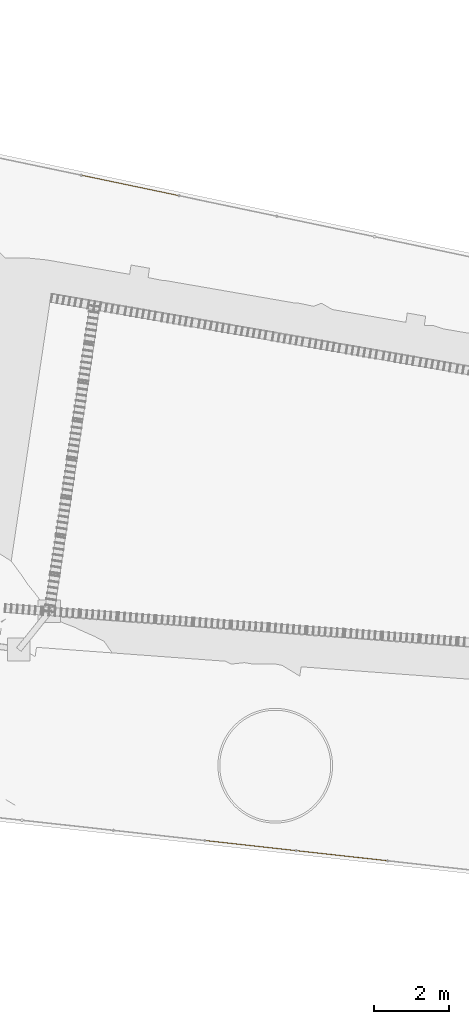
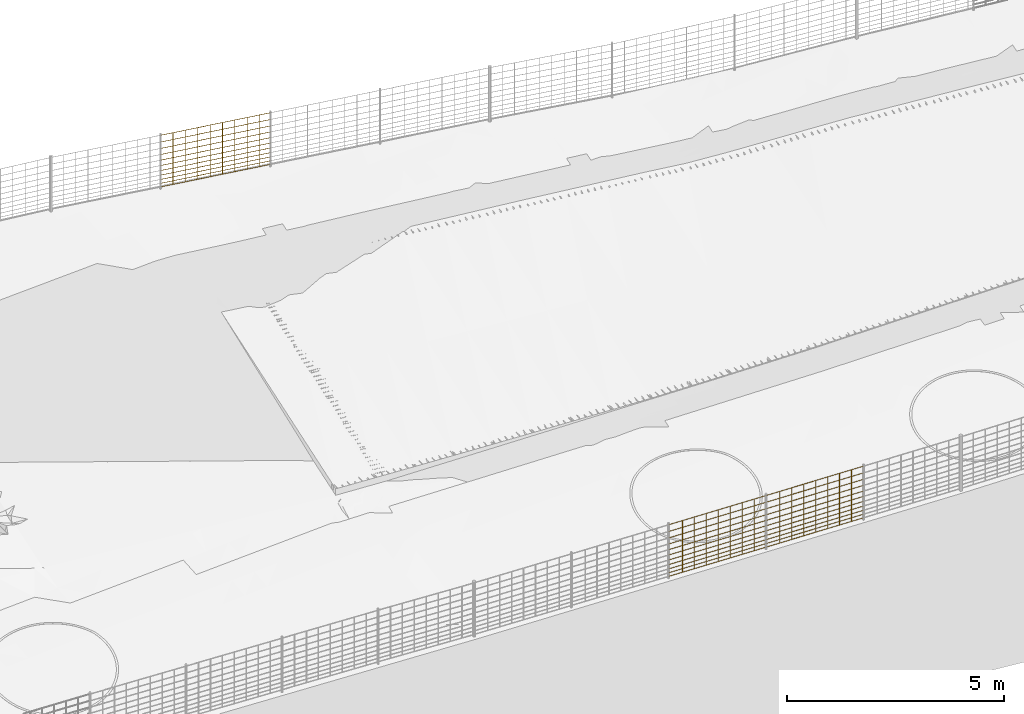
# Not in any storey, part 45 of 72: 3 railings.
"""IFC4 model written with IfcOpenShell, lengths in metres."""

from ifc_helpers import new_model, si_unit, direction, frame, origin_with_axes, place, context, subcontext, project, spatial, polygons, material, element, save


model = new_model("IFC4")

# Units and contexts
model_context = context("Model", 3, precision=1e-05, world=origin_with_axes(), true_north=direction((0.0, 1.0)))
body_context = subcontext(model_context, "Body", "Model", "MODEL_VIEW")
ifc_project = project(units=[si_unit("VOLUMEUNIT", "CUBIC_METRE"), si_unit("LENGTHUNIT", "METRE"), si_unit("AREAUNIT", "SQUARE_METRE")], contexts=[model_context])

# Site
site_placement = place(None, origin_with_axes())
site = spatial("IfcSite", under=ifc_project, at=site_placement, Name="Lares · Rua das Mercês · artigo 4771")

# Railings
ifc_material = material(Name="Aço galvanizado / Stahl verzinkt", Category="steel")
railing_1_placement = place(site_placement, frame((0.0, 0.0, 0.0), z_axis=(0.0, 0.0, 1.0), x_axis=(1.0, -1.03767253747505e-17, 0.0)))
element("IfcRailing", 1, at=railing_1_placement, inside=site, material=ifc_material, Name="Vedação · rede ovelheira 1.014", ObjectType="SHEEP_WIRE_FENCE", PredefinedType="USERDEFINED", context=body_context, shape_type="Tessellation", body=[
    polygons([(56.853072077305, -3.38710782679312, 14.1093326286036), (56.8529881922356, -3.38860773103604, 14.1078348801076), (56.8527410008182, -3.39008950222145, 14.1093326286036), (56.8528248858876, -3.38858959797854, 14.1108303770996), (54.422112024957, -3.11718115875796, 13.9751693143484), (54.4220281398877, -3.11868106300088, 13.9736715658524), (54.4217809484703, -3.12016283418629, 13.9751693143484), (54.4218648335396, -3.11866292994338, 13.9766670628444), (56.853072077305, -3.38710782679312, 14.2093326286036), (56.8529881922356, -3.38860773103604, 14.2078348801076), (56.8527410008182, -3.39008950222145, 14.2093326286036), (56.8528248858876, -3.38858959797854, 14.2108303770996), (54.422112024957, -3.11718115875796, 14.0751693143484), (54.4220281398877, -3.11868106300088, 14.0736715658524), (54.4217809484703, -3.12016283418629, 14.0751693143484), (54.4218648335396, -3.11866292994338, 14.0766670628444), (56.853072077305, -3.38710782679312, 14.3193326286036), (56.8529881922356, -3.38860773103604, 14.3178348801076), (56.8527410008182, -3.39008950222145, 14.3193326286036), (56.8528248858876, -3.38858959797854, 14.3208303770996), (54.422112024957, -3.11718115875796, 14.1851693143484), (54.4220281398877, -3.11868106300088, 14.1836715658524), (54.4217809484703, -3.12016283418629, 14.1851693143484), (54.4218648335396, -3.11866292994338, 14.1866670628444), (56.853072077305, -3.38710782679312, 14.4393326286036), (56.8529881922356, -3.38860773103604, 14.4378348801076), (56.8527410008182, -3.39008950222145, 14.4393326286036), (56.8528248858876, -3.38858959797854, 14.4408303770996), (54.422112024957, -3.11718115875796, 14.3051693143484), (54.4220281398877, -3.11868106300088, 14.3036715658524), (54.4217809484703, -3.12016283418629, 14.3051693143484), (54.4218648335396, -3.11866292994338, 14.3066670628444), (56.853072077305, -3.38710782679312, 14.5693326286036), (56.8529881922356, -3.38860773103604, 14.5678348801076), (56.8527410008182, -3.39008950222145, 14.5693326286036), (56.8528248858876, -3.38858959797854, 14.5708303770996), (54.422112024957, -3.11718115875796, 14.4351693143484), (54.4220281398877, -3.11868106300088, 14.4336715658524), (54.4217809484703, -3.12016283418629, 14.4351693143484), (54.4218648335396, -3.11866292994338, 14.4366670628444), (56.853072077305, -3.38710782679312, 14.7093326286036), (56.8529881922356, -3.38860773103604, 14.7078348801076), (56.8527410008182, -3.39008950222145, 14.7093326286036), (56.8528248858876, -3.38858959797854, 14.7108303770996), (54.422112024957, -3.11718115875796, 14.5751693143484), (54.4220281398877, -3.11868106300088, 14.5736715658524), (54.4217809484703, -3.12016283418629, 14.5751693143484), (54.4218648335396, -3.11866292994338, 14.5766670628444), (56.853072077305, -3.38710782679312, 14.8593326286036), (56.8529881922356, -3.38860773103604, 14.8578348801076), (56.8527410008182, -3.39008950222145, 14.8593326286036), (56.8528248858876, -3.38858959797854, 14.8608303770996), (54.422112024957, -3.11718115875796, 14.7251693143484), (54.4220281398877, -3.11868106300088, 14.7236715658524), (54.4217809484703, -3.12016283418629, 14.7251693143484), (54.4218648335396, -3.11866292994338, 14.7266670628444), (56.853072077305, -3.38710782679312, 15.0193326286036), (56.8529881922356, -3.38860773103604, 15.0178348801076), (56.8527410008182, -3.39008950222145, 15.0193326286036), (56.8528248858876, -3.38858959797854, 15.0208303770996), (54.422112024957, -3.11718115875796, 14.8851693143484), (54.4220281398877, -3.11868106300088, 14.8836715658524), (54.4217809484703, -3.12016283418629, 14.8851693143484), (54.4218648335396, -3.11866292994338, 14.8866670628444), (56.853072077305, -3.38710782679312, 15.1893326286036), (56.8529881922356, -3.38860773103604, 15.1878348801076), (56.8527410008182, -3.39008950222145, 15.1893326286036), (56.8528248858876, -3.38858959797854, 15.1908303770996), (54.422112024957, -3.11718115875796, 15.0551693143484), (54.4220281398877, -3.11868106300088, 15.0536715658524), (54.4217809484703, -3.12016283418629, 15.0551693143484), (54.4218648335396, -3.11866292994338, 15.0566670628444), (56.853072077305, -3.38710782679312, 15.3693326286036), (56.8529881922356, -3.38860773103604, 15.3678348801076), (56.8527410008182, -3.39008950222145, 15.3693326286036), (56.8528248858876, -3.38858959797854, 15.3708303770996), (54.422112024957, -3.11718115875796, 15.2351693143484), (54.4220281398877, -3.11868106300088, 15.2336715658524), (54.4217809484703, -3.12016283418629, 15.2351693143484), (54.4218648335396, -3.11866292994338, 15.2366670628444), (56.853072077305, -3.38710782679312, 15.5593326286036), (56.8529881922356, -3.38860773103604, 15.5578348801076), (56.8527410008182, -3.39008950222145, 15.5593326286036), (56.8528248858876, -3.38858959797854, 15.5608303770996), (54.422112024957, -3.11718115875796, 15.4251693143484), (54.4220281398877, -3.11868106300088, 15.4236715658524), (54.4217809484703, -3.12016283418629, 15.4251693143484), (54.4218648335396, -3.11866292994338, 15.4266670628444), (56.5547389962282, -3.35399101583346, 14.0928769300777), (56.5532389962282, -3.35549101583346, 14.0928769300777), (56.5547389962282, -3.35699101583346, 14.0928769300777), (56.5562389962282, -3.35549101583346, 14.0928769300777), (56.5547389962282, -3.35399101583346, 15.5428769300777), (56.5532389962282, -3.35549101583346, 15.5428769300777), (56.5547389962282, -3.35699101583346, 15.5428769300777), (56.5562389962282, -3.35549101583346, 15.5428769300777), (56.2565714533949, -3.32088336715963, 14.0764212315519), (56.2550714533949, -3.32238336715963, 14.0764212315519), (56.2565714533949, -3.32388336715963, 14.0764212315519), (56.2580714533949, -3.32238336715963, 14.0764212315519), (56.2565714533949, -3.32088336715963, 15.5264212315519), (56.2550714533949, -3.32238336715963, 15.5264212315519), (56.2565714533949, -3.32388336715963, 15.5264212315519), (56.2580714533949, -3.32238336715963, 15.5264212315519), (55.9584039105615, -3.28777571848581, 14.059965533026), (55.9569039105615, -3.28927571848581, 14.059965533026), (55.9584039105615, -3.29077571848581, 14.059965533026), (55.9599039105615, -3.28927571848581, 14.059965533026), (55.9584039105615, -3.28777571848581, 15.509965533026), (55.9569039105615, -3.28927571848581, 15.509965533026), (55.9584039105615, -3.29077571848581, 15.509965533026), (55.9599039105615, -3.28927571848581, 15.509965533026), (55.6602363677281, -3.25466806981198, 14.0435098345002), (55.6587363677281, -3.25616806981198, 14.0435098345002), (55.6602363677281, -3.25766806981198, 14.0435098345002), (55.6617363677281, -3.25616806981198, 14.0435098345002), (55.6602363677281, -3.25466806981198, 15.4935098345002), (55.6587363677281, -3.25616806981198, 15.4935098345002), (55.6602363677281, -3.25766806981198, 15.4935098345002), (55.6617363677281, -3.25616806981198, 15.4935098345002), (55.3620688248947, -3.22156042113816, 14.0270541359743), (55.3605688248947, -3.22306042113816, 14.0270541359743), (55.3620688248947, -3.22456042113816, 14.0270541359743), (55.3635688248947, -3.22306042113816, 14.0270541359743), (55.3620688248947, -3.22156042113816, 15.4770541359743), (55.3605688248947, -3.22306042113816, 15.4770541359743), (55.3620688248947, -3.22456042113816, 15.4770541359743), (55.3635688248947, -3.22306042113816, 15.4770541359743), (55.0639012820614, -3.18845277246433, 14.0105984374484), (55.0624012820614, -3.18995277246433, 14.0105984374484), (55.0639012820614, -3.19145277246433, 14.0105984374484), (55.0654012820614, -3.18995277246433, 14.0105984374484), (55.0639012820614, -3.18845277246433, 15.4605984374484), (55.0624012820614, -3.18995277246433, 15.4605984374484), (55.0639012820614, -3.19145277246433, 15.4605984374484), (55.0654012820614, -3.18995277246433, 15.4605984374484), (54.765733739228, -3.1553451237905, 13.9941427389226), (54.764233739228, -3.1568451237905, 13.9941427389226), (54.765733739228, -3.1583451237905, 13.9941427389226), (54.767233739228, -3.1568451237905, 13.9941427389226), (54.765733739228, -3.1553451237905, 15.4441427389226), (54.764233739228, -3.1568451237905, 15.4441427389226), (54.765733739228, -3.1583451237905, 15.4441427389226), (54.767233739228, -3.1568451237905, 15.4441427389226)], [[[4, 3, 2, 1]], [[5, 6, 7, 8]], [[1, 2, 6, 5]], [[2, 3, 7, 6]], [[3, 4, 8, 7]], [[4, 1, 5, 8]], [[12, 11, 10, 9]], [[13, 14, 15, 16]], [[9, 10, 14, 13]], [[10, 11, 15, 14]], [[11, 12, 16, 15]], [[12, 9, 13, 16]], [[20, 19, 18, 17]], [[21, 22, 23, 24]], [[17, 18, 22, 21]], [[18, 19, 23, 22]], [[19, 20, 24, 23]], [[20, 17, 21, 24]], [[28, 27, 26, 25]], [[29, 30, 31, 32]], [[25, 26, 30, 29]], [[26, 27, 31, 30]], [[27, 28, 32, 31]], [[28, 25, 29, 32]], [[36, 35, 34, 33]], [[37, 38, 39, 40]], [[33, 34, 38, 37]], [[34, 35, 39, 38]], [[35, 36, 40, 39]], [[36, 33, 37, 40]], [[44, 43, 42, 41]], [[45, 46, 47, 48]], [[41, 42, 46, 45]], [[42, 43, 47, 46]], [[43, 44, 48, 47]], [[44, 41, 45, 48]], [[52, 51, 50, 49]], [[53, 54, 55, 56]], [[49, 50, 54, 53]], [[50, 51, 55, 54]], [[51, 52, 56, 55]], [[52, 49, 53, 56]], [[60, 59, 58, 57]], [[61, 62, 63, 64]], [[57, 58, 62, 61]], [[58, 59, 63, 62]], [[59, 60, 64, 63]], [[60, 57, 61, 64]], [[68, 67, 66, 65]], [[69, 70, 71, 72]], [[65, 66, 70, 69]], [[66, 67, 71, 70]], [[67, 68, 72, 71]], [[68, 65, 69, 72]], [[76, 75, 74, 73]], [[77, 78, 79, 80]], [[73, 74, 78, 77]], [[74, 75, 79, 78]], [[75, 76, 80, 79]], [[76, 73, 77, 80]], [[84, 83, 82, 81]], [[85, 86, 87, 88]], [[81, 82, 86, 85]], [[82, 83, 87, 86]], [[83, 84, 88, 87]], [[84, 81, 85, 88]], [[92, 91, 90, 89]], [[93, 94, 95, 96]], [[89, 90, 94, 93]], [[90, 91, 95, 94]], [[91, 92, 96, 95]], [[92, 89, 93, 96]], [[100, 99, 98, 97]], [[101, 102, 103, 104]], [[97, 98, 102, 101]], [[98, 99, 103, 102]], [[99, 100, 104, 103]], [[100, 97, 101, 104]], [[108, 107, 106, 105]], [[109, 110, 111, 112]], [[105, 106, 110, 109]], [[106, 107, 111, 110]], [[107, 108, 112, 111]], [[108, 105, 109, 112]], [[116, 115, 114, 113]], [[117, 118, 119, 120]], [[113, 114, 118, 117]], [[114, 115, 119, 118]], [[115, 116, 120, 119]], [[116, 113, 117, 120]], [[124, 123, 122, 121]], [[125, 126, 127, 128]], [[121, 122, 126, 125]], [[122, 123, 127, 126]], [[123, 124, 128, 127]], [[124, 121, 125, 128]], [[132, 131, 130, 129]], [[133, 134, 135, 136]], [[129, 130, 134, 133]], [[130, 131, 135, 134]], [[131, 132, 136, 135]], [[132, 129, 133, 136]], [[140, 139, 138, 137]], [[141, 142, 143, 144]], [[137, 138, 142, 141]], [[138, 139, 143, 142]], [[139, 140, 144, 143]], [[140, 137, 141, 144]]]),
])
railing_2_placement = place(site_placement, frame((0.0, 0.0, 0.0), z_axis=(0.0, 0.0, 1.0), x_axis=(1.0, -1.03767253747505e-17, 0.0)))
element("IfcRailing", 2, at=railing_2_placement, inside=site, material=ifc_material, Name="Vedação · rede ovelheira 1.015", ObjectType="SHEEP_WIRE_FENCE", PredefinedType="USERDEFINED", context=body_context, shape_type="Tessellation", body=[
    polygons([(54.422112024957, -3.11718115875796, 13.9751693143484), (54.4220281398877, -3.11868106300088, 13.9736715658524), (54.4217809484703, -3.12016283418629, 13.9751693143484), (54.4218648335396, -3.11866292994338, 13.9766670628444), (51.991151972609, -2.8472544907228, 13.8410060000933), (51.9910680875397, -2.84875439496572, 13.8395082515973), (51.9908208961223, -2.85023616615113, 13.8410060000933), (51.9909047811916, -2.84873626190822, 13.8425037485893), (54.422112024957, -3.11718115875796, 14.0751693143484), (54.4220281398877, -3.11868106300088, 14.0736715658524), (54.4217809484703, -3.12016283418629, 14.0751693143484), (54.4218648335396, -3.11866292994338, 14.0766670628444), (51.991151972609, -2.8472544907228, 13.9410060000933), (51.9910680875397, -2.84875439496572, 13.9395082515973), (51.9908208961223, -2.85023616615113, 13.9410060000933), (51.9909047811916, -2.84873626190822, 13.9425037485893), (54.422112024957, -3.11718115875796, 14.1851693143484), (54.4220281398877, -3.11868106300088, 14.1836715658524), (54.4217809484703, -3.12016283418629, 14.1851693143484), (54.4218648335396, -3.11866292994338, 14.1866670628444), (51.991151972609, -2.8472544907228, 14.0510060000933), (51.9910680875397, -2.84875439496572, 14.0495082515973), (51.9908208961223, -2.85023616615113, 14.0510060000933), (51.9909047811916, -2.84873626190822, 14.0525037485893), (54.422112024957, -3.11718115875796, 14.3051693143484), (54.4220281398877, -3.11868106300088, 14.3036715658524), (54.4217809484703, -3.12016283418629, 14.3051693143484), (54.4218648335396, -3.11866292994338, 14.3066670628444), (51.991151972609, -2.8472544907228, 14.1710060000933), (51.9910680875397, -2.84875439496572, 14.1695082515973), (51.9908208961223, -2.85023616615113, 14.1710060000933), (51.9909047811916, -2.84873626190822, 14.1725037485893), (54.422112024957, -3.11718115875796, 14.4351693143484), (54.4220281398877, -3.11868106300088, 14.4336715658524), (54.4217809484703, -3.12016283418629, 14.4351693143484), (54.4218648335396, -3.11866292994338, 14.4366670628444), (51.991151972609, -2.8472544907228, 14.3010060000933), (51.9910680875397, -2.84875439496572, 14.2995082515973), (51.9908208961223, -2.85023616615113, 14.3010060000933), (51.9909047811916, -2.84873626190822, 14.3025037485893), (54.422112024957, -3.11718115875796, 14.5751693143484), (54.4220281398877, -3.11868106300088, 14.5736715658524), (54.4217809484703, -3.12016283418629, 14.5751693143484), (54.4218648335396, -3.11866292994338, 14.5766670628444), (51.991151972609, -2.8472544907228, 14.4410060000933), (51.9910680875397, -2.84875439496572, 14.4395082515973), (51.9908208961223, -2.85023616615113, 14.4410060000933), (51.9909047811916, -2.84873626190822, 14.4425037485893), (54.422112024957, -3.11718115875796, 14.7251693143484), (54.4220281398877, -3.11868106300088, 14.7236715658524), (54.4217809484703, -3.12016283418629, 14.7251693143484), (54.4218648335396, -3.11866292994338, 14.7266670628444), (51.991151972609, -2.8472544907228, 14.5910060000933), (51.9910680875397, -2.84875439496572, 14.5895082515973), (51.9908208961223, -2.85023616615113, 14.5910060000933), (51.9909047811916, -2.84873626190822, 14.5925037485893), (54.422112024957, -3.11718115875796, 14.8851693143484), (54.4220281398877, -3.11868106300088, 14.8836715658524), (54.4217809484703, -3.12016283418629, 14.8851693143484), (54.4218648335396, -3.11866292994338, 14.8866670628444), (51.991151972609, -2.8472544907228, 14.7510060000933), (51.9910680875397, -2.84875439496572, 14.7495082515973), (51.9908208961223, -2.85023616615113, 14.7510060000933), (51.9909047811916, -2.84873626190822, 14.7525037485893), (54.422112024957, -3.11718115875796, 15.0551693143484), (54.4220281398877, -3.11868106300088, 15.0536715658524), (54.4217809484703, -3.12016283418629, 15.0551693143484), (54.4218648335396, -3.11866292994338, 15.0566670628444), (51.991151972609, -2.8472544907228, 14.9210060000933), (51.9910680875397, -2.84875439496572, 14.9195082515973), (51.9908208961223, -2.85023616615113, 14.9210060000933), (51.9909047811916, -2.84873626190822, 14.9225037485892), (54.422112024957, -3.11718115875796, 15.2351693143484), (54.4220281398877, -3.11868106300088, 15.2336715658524), (54.4217809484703, -3.12016283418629, 15.2351693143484), (54.4218648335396, -3.11866292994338, 15.2366670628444), (51.991151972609, -2.8472544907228, 15.1010060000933), (51.9910680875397, -2.84875439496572, 15.0995082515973), (51.9908208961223, -2.85023616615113, 15.1010060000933), (51.9909047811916, -2.84873626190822, 15.1025037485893), (54.422112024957, -3.11718115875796, 15.4251693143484), (54.4220281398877, -3.11868106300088, 15.4236715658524), (54.4217809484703, -3.12016283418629, 15.4251693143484), (54.4218648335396, -3.11866292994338, 15.4266670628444), (51.991151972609, -2.8472544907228, 15.2910060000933), (51.9910680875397, -2.84875439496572, 15.2895082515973), (51.9908208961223, -2.85023616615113, 15.2910060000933), (51.9909047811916, -2.84873626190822, 15.2925037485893), (54.1237789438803, -3.0840643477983, 13.9587136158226), (54.1222789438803, -3.0855643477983, 13.9587136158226), (54.1237789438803, -3.0870643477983, 13.9587136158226), (54.1252789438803, -3.0855643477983, 13.9587136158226), (54.1237789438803, -3.0840643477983, 15.4087136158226), (54.1222789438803, -3.0855643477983, 15.4087136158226), (54.1237789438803, -3.0870643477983, 15.4087136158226), (54.1252789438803, -3.0855643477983, 15.4087136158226), (53.8256114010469, -3.05095669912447, 13.9422579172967), (53.8241114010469, -3.05245669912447, 13.9422579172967), (53.8256114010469, -3.05395669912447, 13.9422579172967), (53.8271114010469, -3.05245669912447, 13.9422579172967), (53.8256114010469, -3.05095669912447, 15.3922579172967), (53.8241114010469, -3.05245669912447, 15.3922579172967), (53.8256114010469, -3.05395669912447, 15.3922579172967), (53.8271114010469, -3.05245669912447, 15.3922579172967), (53.5274438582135, -3.01784905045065, 13.9258022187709), (53.5259438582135, -3.01934905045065, 13.9258022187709), (53.5274438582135, -3.02084905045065, 13.9258022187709), (53.5289438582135, -3.01934905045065, 13.9258022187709), (53.5274438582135, -3.01784905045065, 15.3758022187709), (53.5259438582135, -3.01934905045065, 15.3758022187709), (53.5274438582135, -3.02084905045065, 15.3758022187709), (53.5289438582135, -3.01934905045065, 15.3758022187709), (53.2292763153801, -2.98474140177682, 13.909346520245), (53.2277763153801, -2.98624140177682, 13.909346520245), (53.2292763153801, -2.98774140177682, 13.909346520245), (53.2307763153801, -2.98624140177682, 13.909346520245), (53.2292763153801, -2.98474140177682, 15.359346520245), (53.2277763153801, -2.98624140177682, 15.359346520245), (53.2292763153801, -2.98774140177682, 15.359346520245), (53.2307763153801, -2.98624140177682, 15.359346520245), (52.9311087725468, -2.951633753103, 13.8928908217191), (52.9296087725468, -2.953133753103, 13.8928908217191), (52.9311087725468, -2.954633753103, 13.8928908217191), (52.9326087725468, -2.953133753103, 13.8928908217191), (52.9311087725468, -2.951633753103, 15.3428908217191), (52.9296087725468, -2.953133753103, 15.3428908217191), (52.9311087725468, -2.954633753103, 15.3428908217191), (52.9326087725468, -2.953133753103, 15.3428908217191), (52.6329412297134, -2.91852610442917, 13.8764351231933), (52.6314412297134, -2.92002610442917, 13.8764351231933), (52.6329412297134, -2.92152610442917, 13.8764351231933), (52.6344412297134, -2.92002610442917, 13.8764351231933), (52.6329412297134, -2.91852610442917, 15.3264351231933), (52.6314412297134, -2.92002610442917, 15.3264351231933), (52.6329412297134, -2.92152610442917, 15.3264351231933), (52.6344412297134, -2.92002610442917, 15.3264351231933), (52.33477368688, -2.88541845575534, 13.8599794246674), (52.33327368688, -2.88691845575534, 13.8599794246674), (52.33477368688, -2.88841845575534, 13.8599794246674), (52.33627368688, -2.88691845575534, 13.8599794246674), (52.33477368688, -2.88541845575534, 15.3099794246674), (52.33327368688, -2.88691845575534, 15.3099794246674), (52.33477368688, -2.88841845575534, 15.3099794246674), (52.33627368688, -2.88691845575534, 15.3099794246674)], [[[4, 3, 2, 1]], [[5, 6, 7, 8]], [[1, 2, 6, 5]], [[2, 3, 7, 6]], [[3, 4, 8, 7]], [[4, 1, 5, 8]], [[12, 11, 10, 9]], [[13, 14, 15, 16]], [[9, 10, 14, 13]], [[10, 11, 15, 14]], [[11, 12, 16, 15]], [[12, 9, 13, 16]], [[20, 19, 18, 17]], [[21, 22, 23, 24]], [[17, 18, 22, 21]], [[18, 19, 23, 22]], [[19, 20, 24, 23]], [[20, 17, 21, 24]], [[28, 27, 26, 25]], [[29, 30, 31, 32]], [[25, 26, 30, 29]], [[26, 27, 31, 30]], [[27, 28, 32, 31]], [[28, 25, 29, 32]], [[36, 35, 34, 33]], [[37, 38, 39, 40]], [[33, 34, 38, 37]], [[34, 35, 39, 38]], [[35, 36, 40, 39]], [[36, 33, 37, 40]], [[44, 43, 42, 41]], [[45, 46, 47, 48]], [[41, 42, 46, 45]], [[42, 43, 47, 46]], [[43, 44, 48, 47]], [[44, 41, 45, 48]], [[52, 51, 50, 49]], [[53, 54, 55, 56]], [[49, 50, 54, 53]], [[50, 51, 55, 54]], [[51, 52, 56, 55]], [[52, 49, 53, 56]], [[60, 59, 58, 57]], [[61, 62, 63, 64]], [[57, 58, 62, 61]], [[58, 59, 63, 62]], [[59, 60, 64, 63]], [[60, 57, 61, 64]], [[68, 67, 66, 65]], [[69, 70, 71, 72]], [[65, 66, 70, 69]], [[66, 67, 71, 70]], [[67, 68, 72, 71]], [[68, 65, 69, 72]], [[76, 75, 74, 73]], [[77, 78, 79, 80]], [[73, 74, 78, 77]], [[74, 75, 79, 78]], [[75, 76, 80, 79]], [[76, 73, 77, 80]], [[84, 83, 82, 81]], [[85, 86, 87, 88]], [[81, 82, 86, 85]], [[82, 83, 87, 86]], [[83, 84, 88, 87]], [[84, 81, 85, 88]], [[92, 91, 90, 89]], [[93, 94, 95, 96]], [[89, 90, 94, 93]], [[90, 91, 95, 94]], [[91, 92, 96, 95]], [[92, 89, 93, 96]], [[100, 99, 98, 97]], [[101, 102, 103, 104]], [[97, 98, 102, 101]], [[98, 99, 103, 102]], [[99, 100, 104, 103]], [[100, 97, 101, 104]], [[108, 107, 106, 105]], [[109, 110, 111, 112]], [[105, 106, 110, 109]], [[106, 107, 111, 110]], [[107, 108, 112, 111]], [[108, 105, 109, 112]], [[116, 115, 114, 113]], [[117, 118, 119, 120]], [[113, 114, 118, 117]], [[114, 115, 119, 118]], [[115, 116, 120, 119]], [[116, 113, 117, 120]], [[124, 123, 122, 121]], [[125, 126, 127, 128]], [[121, 122, 126, 125]], [[122, 123, 127, 126]], [[123, 124, 128, 127]], [[124, 121, 125, 128]], [[132, 131, 130, 129]], [[133, 134, 135, 136]], [[129, 130, 134, 133]], [[130, 131, 135, 134]], [[131, 132, 136, 135]], [[132, 129, 133, 136]], [[140, 139, 138, 137]], [[141, 142, 143, 144]], [[137, 138, 142, 141]], [[138, 139, 143, 142]], [[139, 140, 144, 143]], [[140, 137, 141, 144]]]),
])
railing_3_placement = place(site_placement, frame((0.0, 0.0, 0.0), z_axis=(0.0, 0.0, 1.0), x_axis=(1.0, -1.03767253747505e-17, 0.0)))
element("IfcRailing", 3, at=railing_3_placement, inside=site, material=ifc_material, Name="Vedação · rede ovelheira 1.069", ObjectType="SHEEP_WIRE_FENCE", PredefinedType="USERDEFINED", context=body_context, shape_type="Tessellation", body=[
    polygons([(48.7068138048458, 14.8438301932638, 15.2015622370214), (48.7071502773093, 14.8452922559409, 15.2000625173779), (48.7074299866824, 14.8467662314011, 15.2015622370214), (48.7070935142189, 14.845304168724, 15.203061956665), (51.3069349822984, 14.2981467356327, 15.252935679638), (51.3072714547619, 14.2996087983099, 15.2514359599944), (51.307551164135, 14.3010827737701, 15.252935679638), (51.3072146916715, 14.2996207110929, 15.2544353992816), (48.7068138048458, 14.8438301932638, 15.3015622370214), (48.7071502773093, 14.8452922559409, 15.3000625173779), (48.7074299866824, 14.8467662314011, 15.3015622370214), (48.7070935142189, 14.845304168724, 15.303061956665), (51.3069349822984, 14.2981467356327, 15.352935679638), (51.3072714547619, 14.2996087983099, 15.3514359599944), (51.307551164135, 14.3010827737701, 15.352935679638), (51.3072146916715, 14.2996207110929, 15.3544353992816), (48.7068138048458, 14.8438301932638, 15.4115622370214), (48.7071502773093, 14.8452922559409, 15.4100625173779), (48.7074299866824, 14.8467662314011, 15.4115622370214), (48.7070935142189, 14.845304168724, 15.413061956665), (51.3069349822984, 14.2981467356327, 15.462935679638), (51.3072714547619, 14.2996087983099, 15.4614359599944), (51.307551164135, 14.3010827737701, 15.462935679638), (51.3072146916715, 14.2996207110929, 15.4644353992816), (48.7068138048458, 14.8438301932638, 15.5315622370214), (48.7071502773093, 14.8452922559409, 15.5300625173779), (48.7074299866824, 14.8467662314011, 15.5315622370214), (48.7070935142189, 14.845304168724, 15.533061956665), (51.3069349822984, 14.2981467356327, 15.582935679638), (51.3072714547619, 14.2996087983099, 15.5814359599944), (51.307551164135, 14.3010827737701, 15.582935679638), (51.3072146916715, 14.2996207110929, 15.5844353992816), (48.7068138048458, 14.8438301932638, 15.6615622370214), (48.7071502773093, 14.8452922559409, 15.6600625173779), (48.7074299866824, 14.8467662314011, 15.6615622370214), (48.7070935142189, 14.845304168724, 15.663061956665), (51.3069349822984, 14.2981467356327, 15.712935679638), (51.3072714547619, 14.2996087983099, 15.7114359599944), (51.307551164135, 14.3010827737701, 15.712935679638), (51.3072146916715, 14.2996207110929, 15.7144353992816), (48.7068138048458, 14.8438301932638, 15.8015622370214), (48.7071502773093, 14.8452922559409, 15.8000625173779), (48.7074299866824, 14.8467662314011, 15.8015622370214), (48.7070935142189, 14.845304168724, 15.803061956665), (51.3069349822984, 14.2981467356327, 15.852935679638), (51.3072714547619, 14.2996087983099, 15.8514359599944), (51.307551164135, 14.3010827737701, 15.852935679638), (51.3072146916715, 14.2996207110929, 15.8544353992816), (48.7068138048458, 14.8438301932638, 15.9515622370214), (48.7071502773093, 14.8452922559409, 15.9500625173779), (48.7074299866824, 14.8467662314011, 15.9515622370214), (48.7070935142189, 14.845304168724, 15.953061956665), (51.3069349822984, 14.2981467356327, 16.002935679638), (51.3072714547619, 14.2996087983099, 16.0014359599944), (51.307551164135, 14.3010827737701, 16.002935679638), (51.3072146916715, 14.2996207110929, 16.0044353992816), (48.7068138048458, 14.8438301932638, 16.1115622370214), (48.7071502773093, 14.8452922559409, 16.1100625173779), (48.7074299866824, 14.8467662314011, 16.1115622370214), (48.7070935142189, 14.845304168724, 16.113061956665), (51.3069349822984, 14.2981467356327, 16.162935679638), (51.3072714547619, 14.2996087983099, 16.1614359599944), (51.307551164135, 14.3010827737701, 16.162935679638), (51.3072146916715, 14.2996207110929, 16.1644353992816), (48.7068138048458, 14.8438301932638, 16.2815622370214), (48.7071502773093, 14.8452922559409, 16.2800625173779), (48.7074299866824, 14.8467662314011, 16.2815622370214), (48.7070935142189, 14.845304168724, 16.283061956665), (51.3069349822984, 14.2981467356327, 16.332935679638), (51.3072714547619, 14.2996087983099, 16.3314359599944), (51.307551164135, 14.3010827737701, 16.332935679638), (51.3072146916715, 14.2996207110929, 16.3344353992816), (48.7068138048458, 14.8438301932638, 16.4615622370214), (48.7071502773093, 14.8452922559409, 16.4600625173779), (48.7074299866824, 14.8467662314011, 16.4615622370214), (48.7070935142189, 14.845304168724, 16.463061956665), (51.3069349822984, 14.2981467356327, 16.512935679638), (51.3072714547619, 14.2996087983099, 16.5114359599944), (51.307551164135, 14.3010827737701, 16.512935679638), (51.3072146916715, 14.2996207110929, 16.5144353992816), (48.7068138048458, 14.8438301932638, 16.6515622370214), (48.7071502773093, 14.8452922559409, 16.6500625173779), (48.7074299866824, 14.8467662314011, 16.6515622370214), (48.7070935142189, 14.845304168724, 16.653061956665), (51.3069349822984, 14.2981467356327, 16.702935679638), (51.3072714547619, 14.2996087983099, 16.7014359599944), (51.307551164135, 14.3010827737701, 16.702935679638), (51.3072146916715, 14.2996207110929, 16.7044353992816), (49.0007257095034, 14.7851800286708, 15.2073632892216), (48.9992257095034, 14.7836800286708, 15.2073632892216), (49.0007257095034, 14.7821800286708, 15.2073632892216), (49.0022257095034, 14.7836800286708, 15.2073632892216), (49.0007257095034, 14.7851800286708, 16.6573632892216), (48.9992257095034, 14.7836800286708, 16.6573632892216), (49.0007257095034, 14.7821800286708, 16.6573632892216), (49.0022257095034, 14.7836800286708, 16.6573632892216), (49.2943295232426, 14.7235618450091, 15.2131643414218), (49.2928295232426, 14.7220618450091, 15.2131643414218), (49.2943295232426, 14.7205618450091, 15.2131643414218), (49.2958295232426, 14.7220618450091, 15.2131643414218), (49.2943295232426, 14.7235618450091, 16.6631643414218), (49.2928295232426, 14.7220618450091, 16.6631643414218), (49.2943295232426, 14.7205618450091, 16.6631643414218), (49.2958295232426, 14.7220618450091, 16.6631643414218), (49.5879333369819, 14.6619436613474, 15.2189653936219), (49.5864333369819, 14.6604436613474, 15.2189653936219), (49.5879333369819, 14.6589436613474, 15.2189653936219), (49.5894333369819, 14.6604436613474, 15.2189653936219), (49.5879333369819, 14.6619436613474, 16.6689653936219), (49.5864333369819, 14.6604436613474, 16.6689653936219), (49.5879333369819, 14.6589436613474, 16.6689653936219), (49.5894333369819, 14.6604436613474, 16.6689653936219), (49.8815371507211, 14.6003254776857, 15.2247664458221), (49.8800371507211, 14.5988254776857, 15.2247664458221), (49.8815371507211, 14.5973254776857, 15.2247664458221), (49.8830371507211, 14.5988254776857, 15.2247664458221), (49.8815371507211, 14.6003254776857, 16.6747664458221), (49.8800371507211, 14.5988254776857, 16.6747664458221), (49.8815371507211, 14.5973254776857, 16.6747664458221), (49.8830371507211, 14.5988254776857, 16.6747664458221), (50.1751409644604, 14.5387072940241, 15.2305674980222), (50.1736409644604, 14.5372072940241, 15.2305674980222), (50.1751409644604, 14.5357072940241, 15.2305674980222), (50.1766409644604, 14.5372072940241, 15.2305674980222), (50.1751409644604, 14.5387072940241, 16.6805674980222), (50.1736409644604, 14.5372072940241, 16.6805674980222), (50.1751409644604, 14.5357072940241, 16.6805674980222), (50.1766409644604, 14.5372072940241, 16.6805674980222), (50.4687447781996, 14.4770891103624, 15.2363685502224), (50.4672447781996, 14.4755891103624, 15.2363685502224), (50.4687447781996, 14.4740891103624, 15.2363685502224), (50.4702447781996, 14.4755891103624, 15.2363685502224), (50.4687447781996, 14.4770891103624, 16.6863685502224), (50.4672447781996, 14.4755891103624, 16.6863685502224), (50.4687447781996, 14.4740891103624, 16.6863685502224), (50.4702447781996, 14.4755891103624, 16.6863685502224), (50.7623485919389, 14.4154709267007, 15.2421696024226), (50.7608485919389, 14.4139709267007, 15.2421696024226), (50.7623485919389, 14.4124709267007, 15.2421696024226), (50.7638485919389, 14.4139709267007, 15.2421696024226), (50.7623485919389, 14.4154709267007, 16.6921696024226), (50.7608485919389, 14.4139709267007, 16.6921696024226), (50.7623485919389, 14.4124709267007, 16.6921696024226), (50.7638485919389, 14.4139709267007, 16.6921696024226), (51.0559524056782, 14.353852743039, 15.2479706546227), (51.0544524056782, 14.352352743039, 15.2479706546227), (51.0559524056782, 14.350852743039, 15.2479706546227), (51.0574524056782, 14.352352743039, 15.2479706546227), (51.0559524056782, 14.353852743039, 16.6979706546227), (51.0544524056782, 14.352352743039, 16.6979706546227), (51.0559524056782, 14.350852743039, 16.6979706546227), (51.0574524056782, 14.352352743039, 16.6979706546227)], [[[4, 3, 2, 1]], [[5, 6, 7, 8]], [[1, 2, 6, 5]], [[2, 3, 7, 6]], [[3, 4, 8, 7]], [[4, 1, 5, 8]], [[12, 11, 10, 9]], [[13, 14, 15, 16]], [[9, 10, 14, 13]], [[10, 11, 15, 14]], [[11, 12, 16, 15]], [[12, 9, 13, 16]], [[20, 19, 18, 17]], [[21, 22, 23, 24]], [[17, 18, 22, 21]], [[18, 19, 23, 22]], [[19, 20, 24, 23]], [[20, 17, 21, 24]], [[28, 27, 26, 25]], [[29, 30, 31, 32]], [[25, 26, 30, 29]], [[26, 27, 31, 30]], [[27, 28, 32, 31]], [[28, 25, 29, 32]], [[36, 35, 34, 33]], [[37, 38, 39, 40]], [[33, 34, 38, 37]], [[34, 35, 39, 38]], [[35, 36, 40, 39]], [[36, 33, 37, 40]], [[44, 43, 42, 41]], [[45, 46, 47, 48]], [[41, 42, 46, 45]], [[42, 43, 47, 46]], [[43, 44, 48, 47]], [[44, 41, 45, 48]], [[52, 51, 50, 49]], [[53, 54, 55, 56]], [[49, 50, 54, 53]], [[50, 51, 55, 54]], [[51, 52, 56, 55]], [[52, 49, 53, 56]], [[60, 59, 58, 57]], [[61, 62, 63, 64]], [[57, 58, 62, 61]], [[58, 59, 63, 62]], [[59, 60, 64, 63]], [[60, 57, 61, 64]], [[68, 67, 66, 65]], [[69, 70, 71, 72]], [[65, 66, 70, 69]], [[66, 67, 71, 70]], [[67, 68, 72, 71]], [[68, 65, 69, 72]], [[76, 75, 74, 73]], [[77, 78, 79, 80]], [[73, 74, 78, 77]], [[74, 75, 79, 78]], [[75, 76, 80, 79]], [[76, 73, 77, 80]], [[84, 83, 82, 81]], [[85, 86, 87, 88]], [[81, 82, 86, 85]], [[82, 83, 87, 86]], [[83, 84, 88, 87]], [[84, 81, 85, 88]], [[92, 91, 90, 89]], [[93, 94, 95, 96]], [[89, 90, 94, 93]], [[90, 91, 95, 94]], [[91, 92, 96, 95]], [[92, 89, 93, 96]], [[100, 99, 98, 97]], [[101, 102, 103, 104]], [[97, 98, 102, 101]], [[98, 99, 103, 102]], [[99, 100, 104, 103]], [[100, 97, 101, 104]], [[108, 107, 106, 105]], [[109, 110, 111, 112]], [[105, 106, 110, 109]], [[106, 107, 111, 110]], [[107, 108, 112, 111]], [[108, 105, 109, 112]], [[116, 115, 114, 113]], [[117, 118, 119, 120]], [[113, 114, 118, 117]], [[114, 115, 119, 118]], [[115, 116, 120, 119]], [[116, 113, 117, 120]], [[124, 123, 122, 121]], [[125, 126, 127, 128]], [[121, 122, 126, 125]], [[122, 123, 127, 126]], [[123, 124, 128, 127]], [[124, 121, 125, 128]], [[132, 131, 130, 129]], [[133, 134, 135, 136]], [[129, 130, 134, 133]], [[130, 131, 135, 134]], [[131, 132, 136, 135]], [[132, 129, 133, 136]], [[140, 139, 138, 137]], [[141, 142, 143, 144]], [[137, 138, 142, 141]], [[138, 139, 143, 142]], [[139, 140, 144, 143]], [[140, 137, 141, 144]], [[148, 147, 146, 145]], [[149, 150, 151, 152]], [[145, 146, 150, 149]], [[146, 147, 151, 150]], [[147, 148, 152, 151]], [[148, 145, 149, 152]]]),
])

save(model, "model.ifc")
